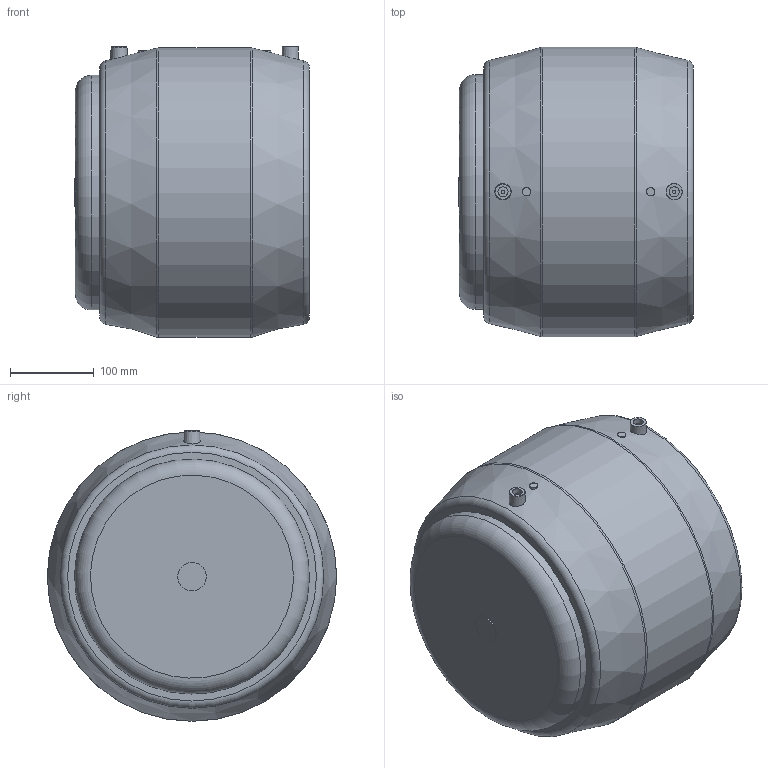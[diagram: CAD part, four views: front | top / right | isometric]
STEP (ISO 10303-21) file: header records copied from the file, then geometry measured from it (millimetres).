
FILE_DESCRIPTION(/* description */ ('Unknown'),/* implementation_level */ '2;1');
FILE_NAME(/* name */ 'CAEP280C',/* time_stamp */ '2021-02-11T10:28:36+01:00',/* author */ ('Unknown'),/* organization */ ('Unknown'),/* preprocessor_version */ 'ST-DEVELOPER v16.7',/* originating_system */ 'Solid Edge',/* authorisation */ 'Unknown');
FILE_SCHEMA (('AUTOMOTIVE_DESIGN {1 0 10303 214 3 1 1}'));
Length unit declared in the file: millimetre
Products named in the file (3): CAEP280C; MP280C; CAP280C
Assembly tree (2 placements, depth 2):
  CAEP280C
    MP280C
    CAP280C
Bounding box: 280 x 345 x 346.5 mm (x, y, z)
Volume: 11071182.4 mm3; surface area: 851812.6 mm2
Topology: 2 solids, 2 shells, 37 faces, 76 edges, 49 vertices
Faces by surface type: plane 14, cylinder 11, torus 7, cone 5
Full cylindrical faces by diameter (mm): 4 x2, 10 x2, 12 x2, 34 x1, 229.2 x1, 280 x2, 345 x1
Entity records: 861 total; most frequent: CARTESIAN_POINT 172, DIRECTION 144, ORIENTED_EDGE 72, EDGE_LOOP 72, FACE_BOUND 72, AXIS2_PLACEMENT_3D 72, ADVANCED_FACE 37, EDGE_CURVE 36
